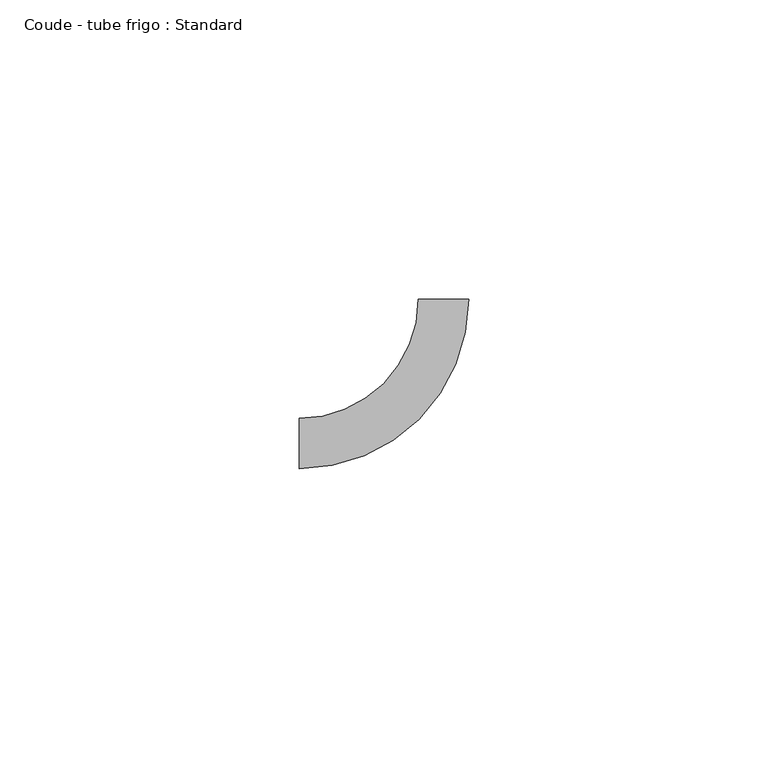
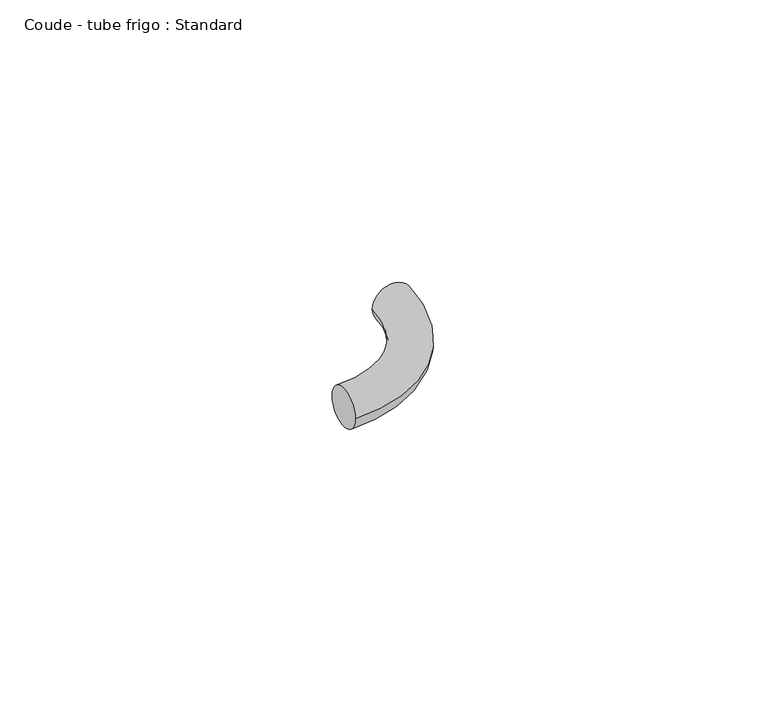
"""IFC4 building model written with IfcOpenShell, lengths in millimetres: pipe fitting geometry, Coude - tube frigo : Standard."""

from ifc_helpers import new_model, si_unit, point, frame, origin, place, context, project, spatial, circle_curve, ellipse_curve, trimmed, source, transform, mapped, element, save
from ifc_brep_helpers import plane_surface, revolved_surface, advanced_brep


def coude_tube_frigo_standard_be92d314(model_context):
    return source(origin(), model_context, "Body", "AdvancedBrep", [
        advanced_brep(
        [(-24.1, -4.2, 0.0), (-24.1, 4.2, 0.0), (4.2, 24.1, 0.0), (-4.2, 24.1, 0.0)],
        [
            (0, 1, circle_curve(frame((-24.1, 0.0, 0.0), z_axis=(-1.0, 0.0, 0.0), x_axis=(0.0, 1.0, 0.0)), 4.2)),
            (1, 0, circle_curve(frame((-24.1, 0.0, 0.0), z_axis=(-1.0, 0.0, 0.0), x_axis=(0.0, 1.0, 0.0)), 4.2)),
            (2, 3, circle_curve(frame((0.0, 24.1, 0.0), z_axis=(0.0, 1.0, 0.0), x_axis=(-1.0, 0.0, 0.0)), 4.2)),
            (3, 2, circle_curve(frame((0.0, 24.1, 0.0), z_axis=(0.0, 1.0, 0.0), x_axis=(-1.0, 0.0, 0.0)), 4.2)),
            (3, 1, circle_curve(frame((-24.1, 24.1, 0.0), z_axis=(0.0, 0.0, -1.0), x_axis=(0.0, -1.0, 0.0)), 19.9)),
            (0, 2, circle_curve(frame((-24.1, 24.1, 0.0), z_axis=(0.0, 0.0, 1.0), x_axis=(0.0, -1.0, 0.0)), 28.3)),
        ],
        [
            plane_surface(frame((-24.1, 0.0, 0.0), z_axis=(-1.0, 0.0, 0.0), x_axis=(0.0, 0.0, 1.0))),
            plane_surface(frame((0.0, 24.1, 0.0), z_axis=(0.0, 1.0, 0.0), x_axis=(0.0, 0.0, 1.0))),
            revolved_surface(trimmed(ellipse_curve(frame((-24.1, 0.0, 0.0), z_axis=(-1.0, 0.0, 0.0), x_axis=(0.0, 1.0, 0.0)), 4.2, 4.2), [point((-24.1, -4.2, 0.0))], [point((-24.1, 4.2, 0.0))], True, "CARTESIAN"), (-24.1, 24.1, 0.0), (0.0, 0.0, 1.0)),
            revolved_surface(trimmed(ellipse_curve(frame((-24.1, 0.0, 0.0), z_axis=(-1.0, 0.0, 0.0), x_axis=(0.0, 1.0, 0.0)), 4.2, 4.2), [point((-24.1, 4.2, 0.0))], [point((-24.1, -4.2, 0.0))], True, "CARTESIAN"), (-24.1, 24.1, 0.0), (0.0, 0.0, 1.0)),
        ],
        [
            (0, [[1, 2]]),
            (1, [[3, 4]]),
            (2, [[5, -1, 6, -4]]),
            (3, [[-6, -2, -5, -3]]),
        ],
    ),
    ])


if __name__ == "__main__":
    model = new_model("IFC4")
    model_context = context("Model", 3, world=origin())
    ifc_project = project(units=[si_unit("LENGTHUNIT", "METRE", prefix="MILLI")], contexts=[model_context])
    site = spatial("IfcSite", under=ifc_project)
    building = spatial("IfcBuilding", under=site)
    placement = place(None, origin())
    coude_tube_frigo_standard_shape = coude_tube_frigo_standard_be92d314(model_context)
    element("IfcPipeFitting", 1, ObjectType="Coude - tube frigo : Standard", at=placement, inside=building, context=model_context, shape_type="MappedRepresentation", body=[
        mapped(coude_tube_frigo_standard_shape, transform((0.0, 0.0, 0.0), x_axis=(1.0, 0.0, 0.0), y_axis=(0.0, 1.0, 0.0), z_axis=(0.0, 0.0, 1.0))),
    ])
    save(model, "model.ifc")
